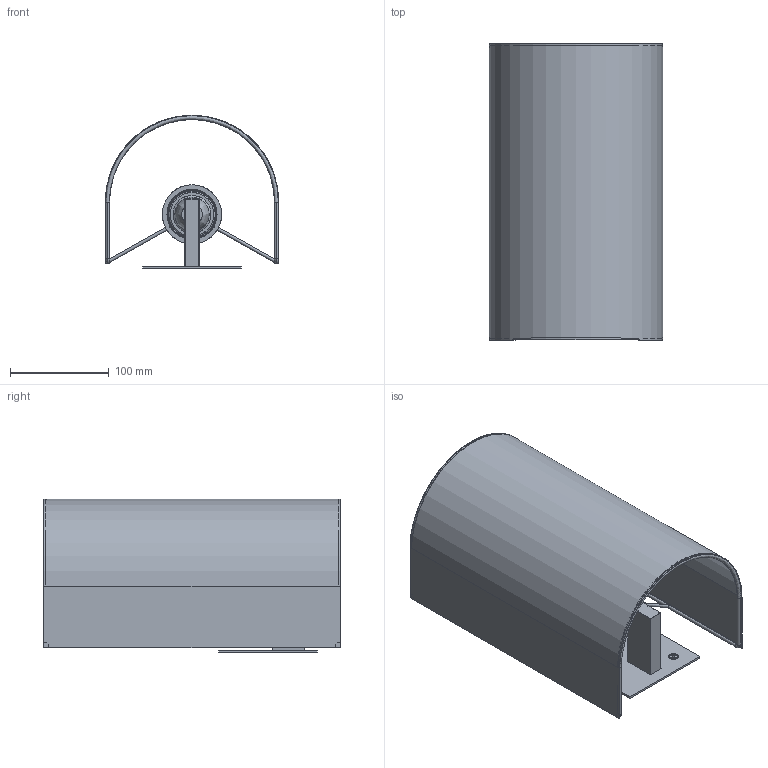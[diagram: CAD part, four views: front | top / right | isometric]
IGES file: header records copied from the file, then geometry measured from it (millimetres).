
Start section: SolidWorks IGES file using analytic representation for surfaces
Global section: file name: C:\SANTACOLE_PDM\Proyectos Catálogo\PROD-P13-029 -- COMODÍN\6_Técnico comercial\3D\Singular.IGS; native system: SolidWorks 2019; preprocessor: SolidWorks 2019; author: ana.pascual; date: 200402.175555; units: millimetre
Bounding box: 175.6 x 300 x 155.3 mm (x, y, z)
Surface area: 324691.5 mm2 (no closed solid volume)
Topology: 0 solids, 0 shells, 407 faces, 4589 edges, 4589 vertices
Faces by surface type: revolution 246, bspline 161
